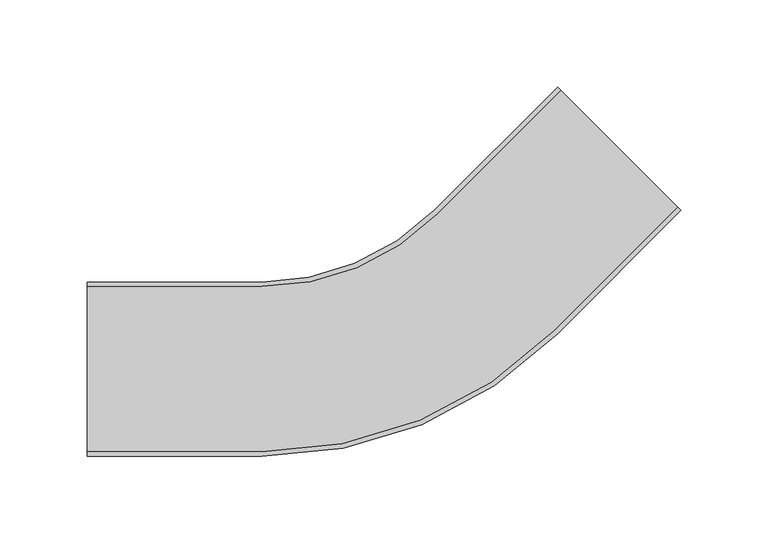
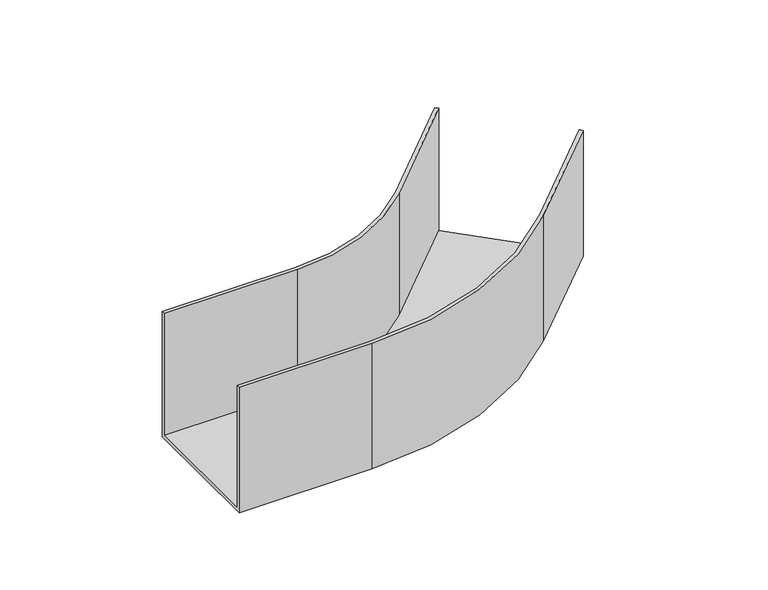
"""IFC4 building model written with IfcOpenShell, lengths in millimetres: cable carrier fitting geometry, BAKS_Elbow_KKZ : KKZC/KKZMC...H100."""

from ifc_helpers import new_model, si_unit, frame, origin, place, context, project, spatial, polyline, circle_curve, source, transform, mapped, element, save
from ifc_brep_helpers import plane_surface, cylinder_surface, revolved_surface, advanced_brep


def cable_carrier_fitting_d4cb8d73(model_context):
    return source(origin(), model_context, "Body", "AdvancedBrep", [
        advanced_brep(
        [(-178.7005769, -50.0, -50.0), (-178.7005769, -50.0, 50.0), (-178.7005769, -47.46, 50.0), (-178.7005769, -47.46, -47.46), (-178.7005769, 47.46, -47.46), (-178.7005769, 47.46, 50.0), (-178.7005769, 50.0, 50.0), (-178.7005769, 50.0, -50.0), (161.7157288, 91.0050506, -50.0), (91.0050506, 161.7157288, -50.0), (91.0050506, 161.7157288, 50.0), (92.8011019, 159.9196775, 50.0), (92.8011019, 159.9196775, -47.46), (159.9196775, 92.8011019, -47.46), (159.9196775, 92.8011019, 50.0), (161.7157288, 91.0050506, 50.0), (-78.7005769, -50.0, -50.0), (-78.7005769, -50.0, 50.0), (91.0050506, 20.2943725, 50.0), (89.2089994, 22.0904237, 50.0), (-78.7005769, -47.46, 50.0), (-78.7005769, -47.46, -47.46), (89.2089994, 22.0904237, -47.46), (22.0904237, 89.2089994, -47.46), (-78.7005769, 47.46, -47.46), (-78.7005769, 47.46, 50.0), (22.0904237, 89.2089994, 50.0), (20.2943725, 91.0050506, 50.0), (-78.7005769, 50.0, 50.0), (-78.7005769, 50.0, -50.0), (20.2943725, 91.0050506, -50.0), (91.0050506, 20.2943725, -50.0)],
        [
            (0, 1),
            (1, 2),
            (2, 3),
            (3, 4),
            (4, 5),
            (5, 6),
            (6, 7),
            (7, 0),
            (8, 9),
            (9, 10),
            (10, 11),
            (11, 12),
            (12, 13),
            (13, 14),
            (14, 15),
            (15, 8),
            (0, 16),
            (16, 17),
            (17, 1),
            (17, 18, circle_curve(frame((-78.7005769, 190.0, 50.0), z_axis=(0.0, 0.0, 1.0), x_axis=(0.0, -1.0, 0.0)), 240.0)),
            (18, 15),
            (14, 19),
            (19, 20, circle_curve(frame((-78.7005769, 190.0, 50.0), z_axis=(0.0, 0.0, -1.0), x_axis=(0.0, -1.0, 0.0)), 237.46)),
            (20, 2),
            (20, 21),
            (21, 3),
            (21, 22, circle_curve(frame((-78.7005769, 190.0, -47.46), z_axis=(0.0, 0.0, 1.0), x_axis=(0.0, -1.0, 0.0)), 237.46)),
            (22, 13),
            (12, 23),
            (23, 24, circle_curve(frame((-78.7005769, 190.0, -47.46), z_axis=(0.0, 0.0, -1.0), x_axis=(0.0, -1.0, 0.0)), 142.54)),
            (24, 4),
            (24, 25),
            (25, 5),
            (25, 26, circle_curve(frame((-78.7005769, 190.0, 50.0), z_axis=(0.0, 0.0, 1.0), x_axis=(0.0, -1.0, 0.0)), 142.54)),
            (26, 11),
            (10, 27),
            (27, 28, circle_curve(frame((-78.7005769, 190.0, 50.0), z_axis=(0.0, 0.0, -1.0), x_axis=(0.0, -1.0, 0.0)), 140.0)),
            (28, 6),
            (28, 29),
            (29, 7),
            (29, 30, circle_curve(frame((-78.7005769, 190.0, -50.0), z_axis=(0.0, 0.0, 1.0), x_axis=(0.0, -1.0, 0.0)), 140.0)),
            (30, 9),
            (8, 31),
            (31, 16, circle_curve(frame((-78.7005769, 190.0, -50.0), z_axis=(0.0, 0.0, -1.0), x_axis=(0.0, -1.0, 0.0)), 240.0)),
            (31, 18),
            (19, 22),
            (23, 26),
            (27, 30),
        ],
        [
            plane_surface(frame((-178.7005769, 0.0, 0.0), z_axis=(-1.0, 0.0, 0.0), x_axis=(0.0, 0.0, 1.0))),
            plane_surface(frame((126.3603897, 126.3603897, 0.0), z_axis=(0.7071067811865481, 0.7071067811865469, 0.0), x_axis=(0.0, 0.0, 1.0))),
            plane_surface(frame((-178.7005769, -50.0, -50.0), z_axis=(0.0, -1.0, 0.0), x_axis=(1.0, 0.0, 0.0))),
            plane_surface(frame((-178.7005769, -50.0, 50.0), z_axis=(0.0, 0.0, 1.0), x_axis=(1.0, 0.0, 0.0))),
            plane_surface(frame((-178.7005769, -47.46, 50.0), z_axis=(0.0, 1.0, 0.0), x_axis=(1.0, 0.0, 0.0))),
            plane_surface(frame((-178.7005769, -47.46, -47.46), z_axis=(0.0, 0.0, 1.0), x_axis=(1.0, 0.0, 0.0))),
            plane_surface(frame((-178.7005769, 47.46, -47.46), z_axis=(0.0, -1.0, 0.0), x_axis=(1.0, 0.0, 0.0))),
            plane_surface(frame((-178.7005769, 47.46, 50.0), z_axis=(0.0, 0.0, 1.0), x_axis=(1.0, 0.0, 0.0))),
            plane_surface(frame((-178.7005769, 50.0, 50.0), z_axis=(0.0, 1.0, 0.0), x_axis=(1.0, 0.0, 0.0))),
            plane_surface(frame((-178.7005769, 50.0, -50.0), z_axis=(0.0, 0.0, -1.0), x_axis=(1.0, 0.0, 0.0))),
            cylinder_surface(frame((-78.7005769, 190.0, 0.0), z_axis=(0.0, 0.0, 1.0), x_axis=(0.0, -1.0, 0.0)), 240.0),
            revolved_surface(polyline([(-78.7005769, -47.46000000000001, 50.0), (-78.7005769, -47.46000000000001, -47.46)]), (-78.7005769, 190.0, 0.0), (0.0, 0.0, 1.0)),
            cylinder_surface(frame((-78.7005769, 190.0, 0.0), z_axis=(0.0, 0.0, 1.0), x_axis=(0.0, -1.0, 0.0)), 142.54),
            revolved_surface(polyline([(-78.7005769, 50.0, 50.0), (-78.7005769, 50.0, -50.0)]), (-78.7005769, 190.0, 0.0), (0.0, 0.0, 1.0)),
            plane_surface(frame((91.0050506, 20.2943725, -50.0), z_axis=(0.7071067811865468, -0.7071067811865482, 0.0), x_axis=(0.7071067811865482, 0.7071067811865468, 0.0))),
            plane_surface(frame((89.2089994, 22.0904237, 50.0), z_axis=(-0.7071067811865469, 0.7071067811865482, 0.0), x_axis=(0.7071067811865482, 0.7071067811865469, 0.0))),
            plane_surface(frame((22.0904237, 89.2089994, -47.46), z_axis=(0.7071067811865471, -0.707106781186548, 0.0), x_axis=(0.707106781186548, 0.7071067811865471, 0.0))),
            plane_surface(frame((20.2943725, 91.0050506, 50.0), z_axis=(-0.707106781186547, 0.7071067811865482, 0.0), x_axis=(0.7071067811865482, 0.707106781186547, 0.0))),
        ],
        [
            (0, [[1, 2, 3, 4, 5, 6, 7, 8]]),
            (1, [[9, 10, 11, 12, 13, 14, 15, 16]]),
            (2, [[-1, 17, 18, 19]]),
            (3, [[-2, -19, 20, 21, -15, 22, 23, 24]]),
            (4, [[-3, -24, 25, 26]]),
            (5, [[-4, -26, 27, 28, -13, 29, 30, 31]]),
            (6, [[-5, -31, 32, 33]]),
            (7, [[-6, -33, 34, 35, -11, 36, 37, 38]]),
            (8, [[-7, -38, 39, 40]]),
            (9, [[-8, -40, 41, 42, -9, 43, 44, -17]]),
            (10, [[-20, -18, -44, 45]]),
            (11, [[-27, -25, -23, 46]]),
            (12, [[-34, -32, -30, 47]]),
            (13, [[-41, -39, -37, 48]]),
            (14, [[-45, -43, -16, -21]]),
            (15, [[-46, -22, -14, -28]]),
            (16, [[-47, -29, -12, -35]]),
            (17, [[-48, -36, -10, -42]]),
        ],
    ),
    ])


if __name__ == "__main__":
    model = new_model("IFC4")
    model_context = context("Model", 3, world=origin())
    ifc_project = project(units=[si_unit("LENGTHUNIT", "METRE", prefix="MILLI")], contexts=[model_context])
    site = spatial("IfcSite", under=ifc_project)
    building = spatial("IfcBuilding", under=site)
    placement = place(None, origin())
    cable_carrier_fitting_shape = cable_carrier_fitting_d4cb8d73(model_context)
    element("IfcCableCarrierFitting", 1, ObjectType="BAKS_Elbow_KKZ : KKZC/KKZMC...H100", at=placement, inside=building, context=model_context, shape_type="MappedRepresentation", body=[
        mapped(cable_carrier_fitting_shape, transform((0.0, 0.0, 0.0), x_axis=(1.0, 0.0, 0.0), y_axis=(0.0, 1.0, 0.0), z_axis=(0.0, 0.0, 1.0))),
    ])
    save(model, "model.ifc")
